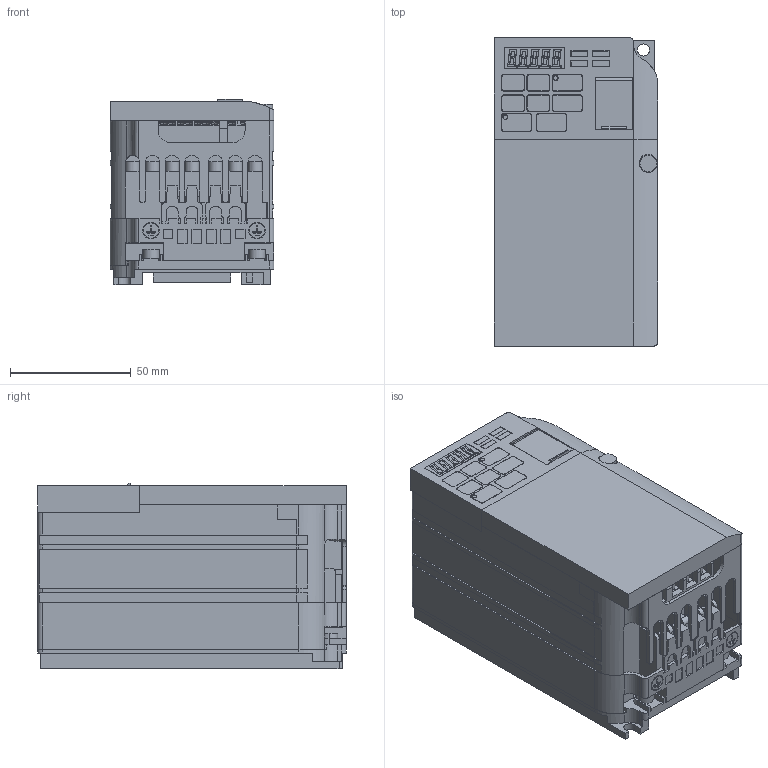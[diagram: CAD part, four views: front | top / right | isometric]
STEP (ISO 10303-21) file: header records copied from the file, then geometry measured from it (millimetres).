
FILE_DESCRIPTION((''),'2;1');
FILE_NAME('V1000_IP20_FRAME_A1_ASM','2010-07-20T',('jc'),('YASKAWA ELECTRIC CORCORATION'),'PRO/ENGINEER BY PARAMETRIC TECHNOLOGY CORPORATION, 2008490','PRO/ENGINEER BY PARAMETRIC TECHNOLOGY CORPORATION, 2008490','');
FILE_SCHEMA(('CONFIG_CONTROL_DESIGN'));
Length unit declared in the file: millimetre
Products named in the file (19): NONE-55744; BASE_CONTROL_TERMINAL_Z_________ASM; NONE-65737; BASE_MAIN_TERMINAL_A________ANY_ASM; NONE-48346; BASE_HEATSINK_A1________ANY_ASM; NONE-39900; OPERATOR_A________ANY_ASM; NONE-37133; SHITA_COVER_A1________ANY_ASM; NONE-39702; OPERATOR_COVER_A________ANY_ASM; NONE-39088; FACE_COVER_A________ANY_ASM; NONE-61109; BASE_CASE_A1________ANY_ASM; CIMR_VZ2A0002BAA_ANY_ASM; _2A0001B_2A0002B_BA0001B_BA0002; V1000_IP20_FRAME_A1_ASM
Assembly tree (18 placements, depth 4):
  V1000_IP20_FRAME_A1_ASM
    CIMR_VZ2A0002BAA_ANY_ASM
      BASE_CONTROL_TERMINAL_Z_________ASM
        NONE-55744
      BASE_MAIN_TERMINAL_A________ANY_ASM
        NONE-65737
      BASE_HEATSINK_A1________ANY_ASM
        NONE-48346
      OPERATOR_A________ANY_ASM
        NONE-39900
      SHITA_COVER_A1________ANY_ASM
        NONE-37133
      OPERATOR_COVER_A________ANY_ASM
        NONE-39702
      FACE_COVER_A________ANY_ASM
        NONE-39088
      BASE_CASE_A1________ANY_ASM
        NONE-61109
    _2A0001B_2A0002B_BA0001B_BA0002
Bounding box: 68 x 128 x 77 mm (x, y, z)
Volume: 451332.4 mm3; surface area: 123039.7 mm2
Topology: 8 solids, 8 shells, 1679 faces, 4564 edges, 3011 vertices
Faces by surface type: plane 1348, cylinder 331
Entity records: 53024 total; most frequent: CARTESIAN_POINT 9415, ORIENTED_EDGE 9128, DIRECTION 8758, EDGE_CURVE 4564, VECTOR 3810, LINE 3810, VERTEX_POINT 3011, AXIS2_PLACEMENT_3D 2474
